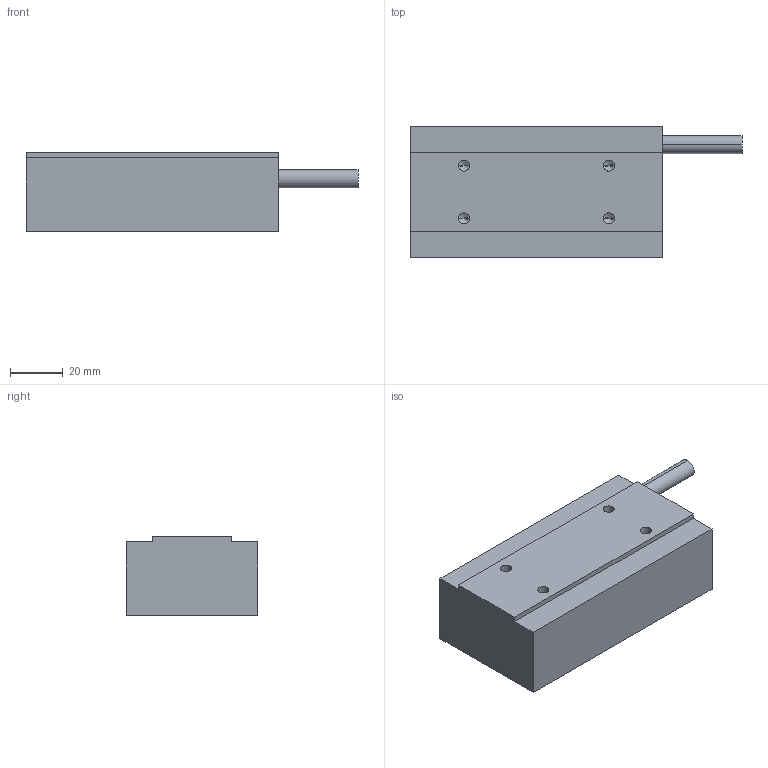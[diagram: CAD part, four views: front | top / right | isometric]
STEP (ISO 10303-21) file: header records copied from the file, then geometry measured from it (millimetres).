
FILE_DESCRIPTION (( 'STEP AP214' ), '1' );
FILE_NAME ('FLT-50-96.STEP', '2022-04-13T09:06:58', ( 'Microsoft' ), ( 'Microsoft' ), 'SwSTEP 2.0', 'SolidWorks 2016', '' );
FILE_SCHEMA (( 'AUTOMOTIVE_DESIGN' ));
Length unit declared in the file: millimetre
Products named in the file (1): FLT-50-96
Bounding box: 126 x 50 x 30 mm (x, y, z)
Volume: 140857.8 mm3; surface area: 19331.8 mm2
Topology: 1 solids, 1 shells, 37 faces, 90 edges, 50 vertices
Faces by surface type: cylinder 14, cone 12, plane 11
Entity records: 1158 total; most frequent: DIRECTION 182, CARTESIAN_POINT 166, ORIENTED_EDGE 156, EDGE_CURVE 78, AXIS2_PLACEMENT_3D 66, LINE 50, VECTOR 50, VERTEX_POINT 50
